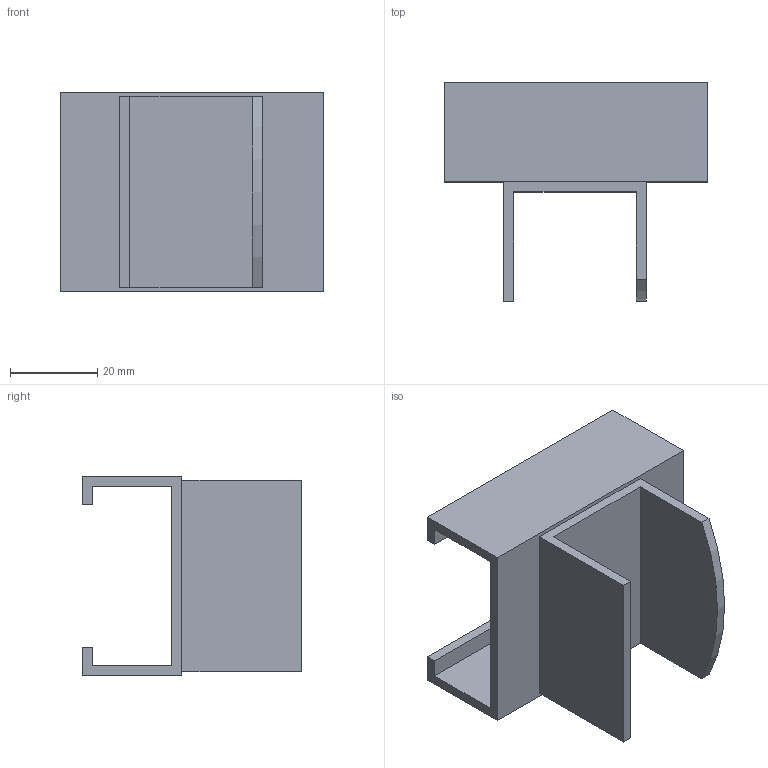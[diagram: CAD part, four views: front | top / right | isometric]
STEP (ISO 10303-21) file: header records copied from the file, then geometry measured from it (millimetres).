
FILE_DESCRIPTION (( 'STEP AP214' ), '1' );
FILE_NAME ('JB-504H.step', '2023-12-26T01:20:22', ( 'catia' ), ( 'HP Inc.' ), 'SwSTEP 2.0', 'SolidWorks 2021', '' );
FILE_SCHEMA (( 'AUTOMOTIVE_DESIGN' ));
Length unit declared in the file: millimetre
Products named in the file (1): JB-504H
Bounding box: 60 x 50 x 45.6 mm (x, y, z)
Volume: 21237.5 mm3; surface area: 16885.4 mm2
Topology: 1 solids, 1 shells, 23 faces, 60 edges, 40 vertices
Faces by surface type: plane 22, cylinder 1
Entity records: 730 total; most frequent: CARTESIAN_POINT 124, ORIENTED_EDGE 120, DIRECTION 110, EDGE_CURVE 60, LINE 58, VECTOR 58, VERTEX_POINT 40, AXIS2_PLACEMENT_3D 26
